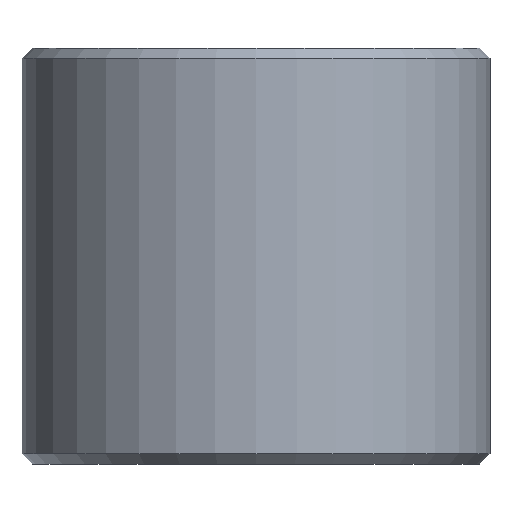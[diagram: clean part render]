
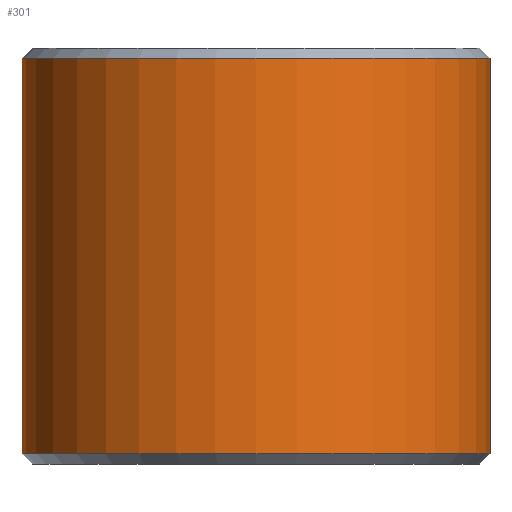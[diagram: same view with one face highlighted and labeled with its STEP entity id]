
A CAD part, front view. The second image highlights one B-rep face of the part: STEP entity #301.
In plain terms, the highlighted cylindrical face has radius 18 mm (diameter 36 mm), a partial arc.
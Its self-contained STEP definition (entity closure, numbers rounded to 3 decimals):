
#25 = CARTESIAN_POINT ( 'NONE',  ( -18., 0., 16. ) ) ;
#28 = VECTOR ( 'NONE', #119, 1000. ) ;
#46 = AXIS2_PLACEMENT_3D ( 'NONE', #409, #88, #224 ) ;
#67 = DIRECTION ( 'NONE',  ( 0., 0., 1. ) ) ;
#88 = DIRECTION ( 'NONE',  ( 0., 0., -1. ) ) ;
#89 = EDGE_CURVE ( 'NONE', #260, #143, #122, .T. ) ;
#99 = CYLINDRICAL_SURFACE ( 'NONE', #142, 18. ) ;
#101 = CIRCLE ( 'NONE', #46, 18. ) ;
#110 = ORIENTED_EDGE ( 'NONE', *, *, #175, .F. ) ;
#119 = DIRECTION ( 'NONE',  ( 0., 0., -1. ) ) ;
#122 = LINE ( 'NONE', #25, #28 ) ;
#142 = AXIS2_PLACEMENT_3D ( 'NONE', #160, #230, #381 ) ;
#143 = VERTEX_POINT ( 'NONE', #298 ) ;
#149 = EDGE_LOOP ( 'NONE', ( #110, #441, #389, #208 ) ) ;
#155 = DIRECTION ( 'NONE',  ( 0., 0., -1. ) ) ;
#160 = CARTESIAN_POINT ( 'NONE',  ( 0., 0., 16. ) ) ;
#161 = EDGE_CURVE ( 'NONE', #170, #260, #101, .T. ) ;
#170 = VERTEX_POINT ( 'NONE', #187 ) ;
#175 = EDGE_CURVE ( 'NONE', #170, #433, #446, .T. ) ;
#187 = CARTESIAN_POINT ( 'NONE',  ( 18., 0., 15.2 ) ) ;
#208 = ORIENTED_EDGE ( 'NONE', *, *, #343, .T. ) ;
#224 = DIRECTION ( 'NONE',  ( 1., 0., 0. ) ) ;
#229 = CARTESIAN_POINT ( 'NONE',  ( -18., 0., 15.2 ) ) ;
#230 = DIRECTION ( 'NONE',  ( 0., 0., -1. ) ) ;
#232 = DIRECTION ( 'NONE',  ( 1., 0., 0. ) ) ;
#260 = VERTEX_POINT ( 'NONE', #229 ) ;
#271 = FACE_OUTER_BOUND ( 'NONE', #149, .T. ) ;
#298 = CARTESIAN_POINT ( 'NONE',  ( -18., 0., -15.2 ) ) ;
#301 = ADVANCED_FACE ( 'NONE', ( #271 ), #99, .T. ) ;
#327 = CIRCLE ( 'NONE', #379, 18. ) ;
#343 = EDGE_CURVE ( 'NONE', #143, #433, #327, .T. ) ;
#367 = VECTOR ( 'NONE', #155, 1000. ) ;
#377 = CARTESIAN_POINT ( 'NONE',  ( 0., 0., -15.2 ) ) ;
#379 = AXIS2_PLACEMENT_3D ( 'NONE', #377, #67, #232 ) ;
#381 = DIRECTION ( 'NONE',  ( -1., 0., 0. ) ) ;
#389 = ORIENTED_EDGE ( 'NONE', *, *, #89, .T. ) ;
#409 = CARTESIAN_POINT ( 'NONE',  ( 0., 0., 15.2 ) ) ;
#410 = CARTESIAN_POINT ( 'NONE',  ( 18., 0., 16. ) ) ;
#419 = CARTESIAN_POINT ( 'NONE',  ( 18., 0., -15.2 ) ) ;
#433 = VERTEX_POINT ( 'NONE', #419 ) ;
#441 = ORIENTED_EDGE ( 'NONE', *, *, #161, .T. ) ;
#446 = LINE ( 'NONE', #410, #367 ) ;
